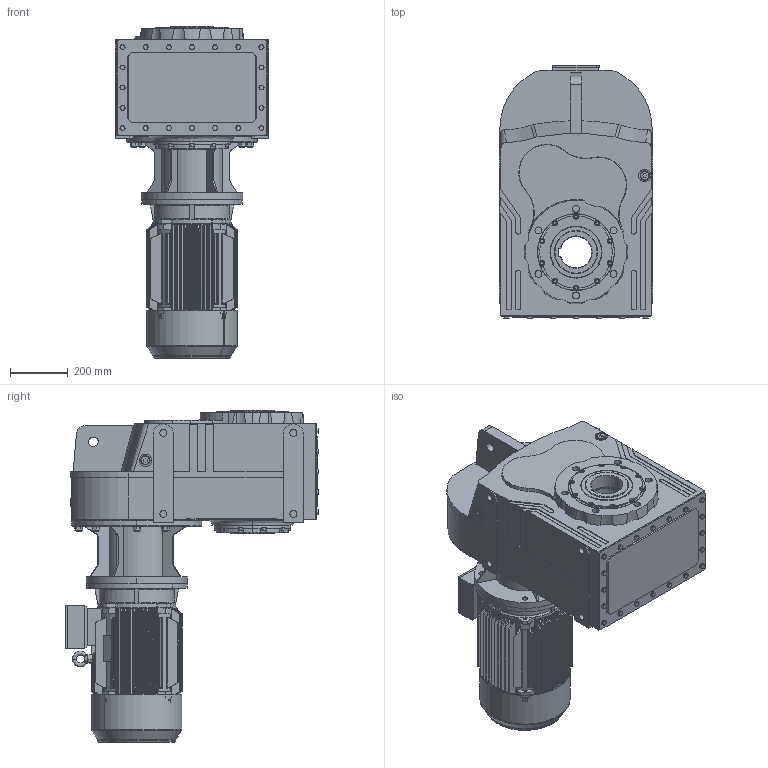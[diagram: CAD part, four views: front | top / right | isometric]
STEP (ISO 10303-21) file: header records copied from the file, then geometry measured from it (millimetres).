
FILE_DESCRIPTION (( 'STEP AP203' ), '1' );
FILE_NAME ('DV872-DV873-M3-160L.STEP', '2019-07-23T13:29:28', ( '' ), ( '' ), 'SwSTEP 2.0', 'SolidWorks 2012', '' );
FILE_SCHEMA (( 'CONFIG_CONTROL_DESIGN' ));
Products named in the file (15): DV872-DV873-M3-160L; Y2-160_shaft; M3-160L-FF-B5; +¦i-MN2-160_-++ñ; Eyebolts GB_GB_FASTENER_SCREWS_FRS M12N; Y2-160L+À+¿(B5)_-++ñ; Y2-160-2ª¥--®+_-++ñ; Y2-160-4Ý¾6Ý¾8-ª+---®+_-++ñ; +ª+§ªiY2-160ñ»ª­_-++ñ; Y2-160ñ»ª­+¿_-++ñ; Y2-160-180ñ»ª­®+_-++ñ; DN_87_3_0_A-B16_B5_ML23A_0_0_0_0_0_0_0_0_0_0_0_0_M1; ML23A_Varsayìlan; D873_Varsayìlan; 83B160B5_Varsayìlan
Assembly tree (14 placements, depth 4):
  DV872-DV873-M3-160L
    DN_87_3_0_A-B16_B5_ML23A_0_0_0_0_0_0_0_0_0_0_0_0_M1
      D873_Varsayìlan
      83B160B5_Varsayìlan
      ML23A_Varsayìlan
    M3-160L-FF-B5
      +ª+§ªiY2-160ñ»ª­_-++ñ
        Y2-160-180ñ»ª­®+_-++ñ
        Y2-160ñ»ª­+¿_-++ñ
      Y2-160-4Ý¾6Ý¾8-ª+---®+_-++ñ
      Y2-160L+À+¿(B5)_-++ñ
      Eyebolts GB_GB_FASTENER_SCREWS_FRS M12N
      Y2-160-2ª¥--®+_-++ñ
      +¦i-MN2-160_-++ñ
      Y2-160_shaft
Bounding box: 530 x 876.4 x 1148.5 mm (x, y, z)
Volume: 148754940 mm3; surface area: 5700063.2 mm2
Topology: 36 solids, 36 shells, 2904 faces, 7423 edges, 4707 vertices
Faces by surface type: plane 1235, cylinder 985, cone 391, bspline 186, torus 67, sphere 40
Entity records: 127028 total; most frequent: CARTESIAN_POINT 57562, ORIENTED_EDGE 14750, DIRECTION 13221, EDGE_CURVE 7375, AXIS2_PLACEMENT_3D 4916, VERTEX_POINT 4692, VECTOR 3389, LINE 3389
